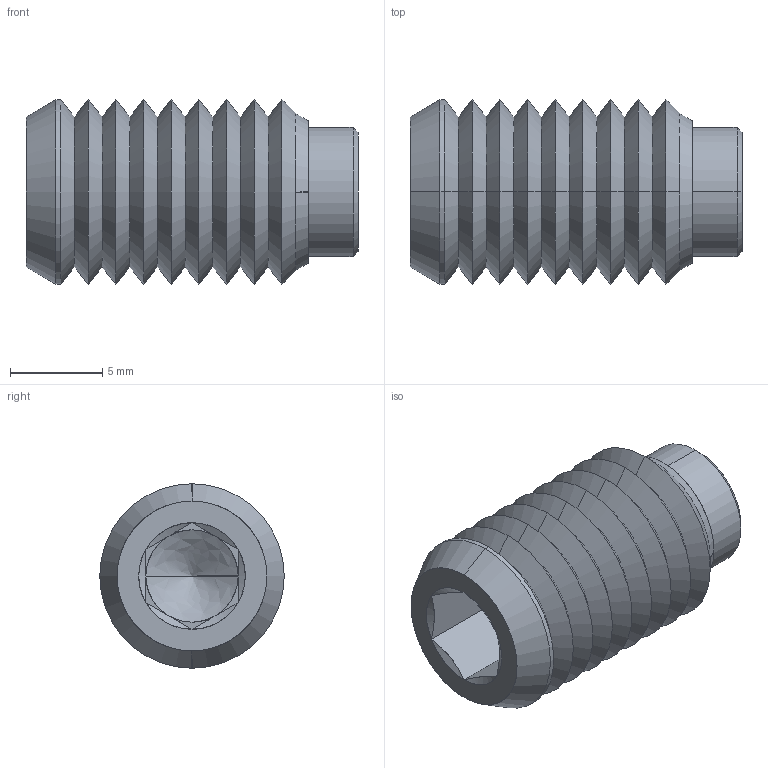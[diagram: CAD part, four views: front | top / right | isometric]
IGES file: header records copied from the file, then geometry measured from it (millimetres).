
Start section: SolidWorks IGES file using analytic representation for surfaces
Global section: file name: C:\Users\IanO\Desktop\P0120_v2_230406\P0120_v2_20230506_IGES\P0120.100-018.igs; native system: SolidWorks 2019; preprocessor: SolidWorks 2019; author: IanO; date: 230406.142510; units: millimetre
Bounding box: 18 x 10 x 10 mm (x, y, z)
Surface area: 1096.5 mm2 (no closed solid volume)
Topology: 0 solids, 0 shells, 71 faces, 542 edges, 540 vertices
Faces by surface type: revolution 54, bspline 17
